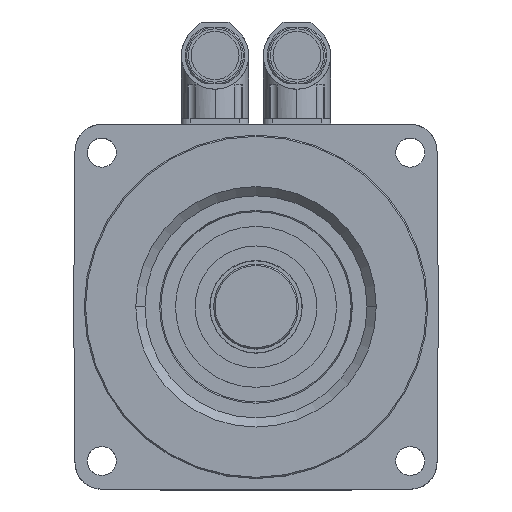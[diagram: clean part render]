
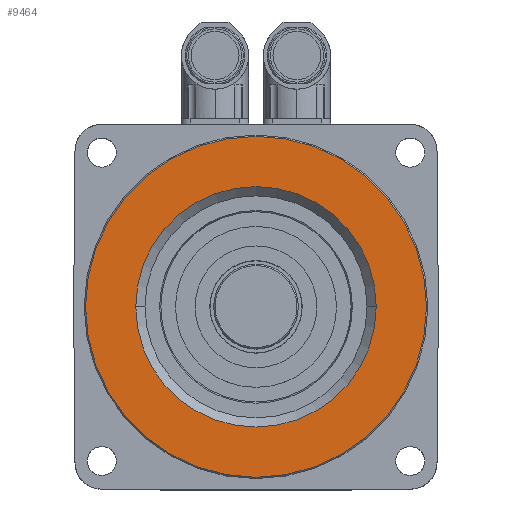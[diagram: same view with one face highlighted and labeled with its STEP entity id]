
A CAD part, top view. The second image highlights one B-rep face of the part: STEP entity #9464.
In plain terms, the highlighted planar face has unit normal (0, 0, 1).
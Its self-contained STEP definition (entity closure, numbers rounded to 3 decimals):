
#1392 = CARTESIAN_POINT ( 'NONE',  ( -64.5, 0., 2.46 ) ) ;
#1393 = CARTESIAN_POINT ( 'NONE',  ( 64.5, 0., 2.46 ) ) ;
#1394 = DIRECTION ( 'NONE',  ( 1., 0., 0. ) ) ;
#1395 = DIRECTION ( 'NONE',  ( 0., 0., 1. ) ) ;
#1396 = CARTESIAN_POINT ( 'NONE',  ( 0., 0., 2.46 ) ) ;
#1398 = AXIS2_PLACEMENT_3D ( 'NONE', #1396, #1395, #1394 ) ;
#1406 = CIRCLE ( 'NONE', #1398, 64.5 ) ;
#3447 = FACE_OUTER_BOUND ( 'NONE', #9465, .T. ) ;
#3448 = FACE_BOUND ( 'NONE', #9469, .T. ) ;
#3846 = DIRECTION ( 'NONE',  ( 1., 0., 0. ) ) ;
#3847 = AXIS2_PLACEMENT_3D ( 'NONE', #3850, #3848, #3846 ) ;
#3848 = DIRECTION ( 'NONE',  ( 0., 0., 1. ) ) ;
#3849 = PLANE ( 'NONE',  #3847 ) ;
#3850 = CARTESIAN_POINT ( 'NONE',  ( 0., 64.5, 2.46 ) ) ;
#4084 = CIRCLE ( 'NONE', #4139, 64.5 ) ;
#4137 = DIRECTION ( 'NONE',  ( 1., 0., 0. ) ) ;
#4138 = DIRECTION ( 'NONE',  ( 0., 0., 1. ) ) ;
#4139 = AXIS2_PLACEMENT_3D ( 'NONE', #4167, #4138, #4137 ) ;
#4167 = CARTESIAN_POINT ( 'NONE',  ( 0., 0., 2.46 ) ) ;
#6204 = VERTEX_POINT ( 'NONE', #12278 ) ;
#6245 = VERTEX_POINT ( 'NONE', #11998 ) ;
#6499 = EDGE_CURVE ( 'NONE', #6204, #6245, #13689, .T. ) ;
#7685 = DIRECTION ( 'NONE',  ( 0., 0., -1. ) ) ;
#7686 = AXIS2_PLACEMENT_3D ( 'NONE', #7711, #7685, #7701 ) ;
#7687 = CIRCLE ( 'NONE', #7686, 45.5 ) ;
#7701 = DIRECTION ( 'NONE',  ( -1., 0., 0. ) ) ;
#7711 = CARTESIAN_POINT ( 'NONE',  ( 0., 0., 2.46 ) ) ;
#8437 = EDGE_CURVE ( 'NONE', #8438, #8439, #1406, .T. ) ;
#8438 = VERTEX_POINT ( 'NONE', #1393 ) ;
#8439 = VERTEX_POINT ( 'NONE', #1392 ) ;
#9464 = ADVANCED_FACE ( 'NONE', ( #3447, #3448 ), #3849, .T. ) ;
#9465 = EDGE_LOOP ( 'NONE', ( #9466, #9468 ) ) ;
#9466 = ORIENTED_EDGE ( 'NONE', *, *, #9467, .T. ) ;
#9467 = EDGE_CURVE ( 'NONE', #8439, #8438, #4084, .T. ) ;
#9468 = ORIENTED_EDGE ( 'NONE', *, *, #8437, .T. ) ;
#9469 = EDGE_LOOP ( 'NONE', ( #9470, #9471 ) ) ;
#9470 = ORIENTED_EDGE ( 'NONE', *, *, #6499, .T. ) ;
#9471 = ORIENTED_EDGE ( 'NONE', *, *, #9708, .T. ) ;
#9708 = EDGE_CURVE ( 'NONE', #6245, #6204, #7687, .T. ) ;
#11998 = CARTESIAN_POINT ( 'NONE',  ( -45.5, 0., 2.46 ) ) ;
#12278 = CARTESIAN_POINT ( 'NONE',  ( 45.5, 0., 2.46 ) ) ;
#13686 = DIRECTION ( 'NONE',  ( -1., 0., 0. ) ) ;
#13687 = DIRECTION ( 'NONE',  ( 0., 0., -1. ) ) ;
#13688 = AXIS2_PLACEMENT_3D ( 'NONE', #13696, #13687, #13686 ) ;
#13689 = CIRCLE ( 'NONE', #13688, 45.5 ) ;
#13696 = CARTESIAN_POINT ( 'NONE',  ( 0., 0., 2.46 ) ) ;
